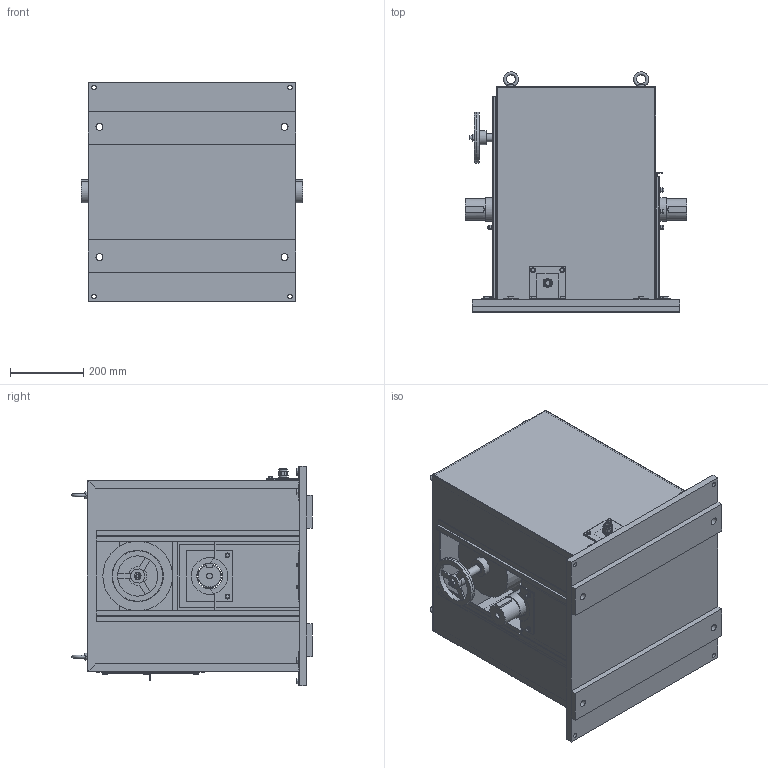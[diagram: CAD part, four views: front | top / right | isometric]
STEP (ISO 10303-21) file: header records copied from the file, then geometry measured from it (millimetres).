
FILE_DESCRIPTION (( 'STEP AP203' ), '1' );
FILE_NAME ('ECE-1514S-06_水門用直流電磁ブレーキ.STEP', '2026-04-06T07:36:43', ( '' ), ( '' ), 'SwSTEP 2.0', 'SolidWorks 2025', '' );
FILE_SCHEMA (( 'CONFIG_CONTROL_DESIGN' ));
Length unit declared in the file: millimetre
Products named in the file (1): ECE-1514S-06_水門用直流電磁ブレーキ
Bounding box: 605 x 655.49 x 600 mm (x, y, z)
Volume: 20757512.5 mm3; surface area: 4196129.4 mm2
Topology: 4 solids, 4 shells, 973 faces, 2448 edges, 1562 vertices
Faces by surface type: plane 671, cone 160, cylinder 126, sphere 12, torus 4
Full cylindrical faces by diameter (mm): 6 x2, 7 x2, 8 x4, 8.5 x4, 10 x13, 12 x4, 13 x17, 16 x1, 18 x8, 19 x8, 20 x1, 22 x2, 23 x1, 25 x1, 28 x1, 38 x2, 50 x1, 60 x2, 65 x3, 70 x1, 110 x1, 190 x1
Entity records: 29305 total; most frequent: CARTESIAN_POINT 6741, ORIENTED_EDGE 4628, DIRECTION 4375, EDGE_CURVE 2314, VECTOR 1565, LINE 1565, VERTEX_POINT 1522, AXIS2_PLACEMENT_3D 1405
